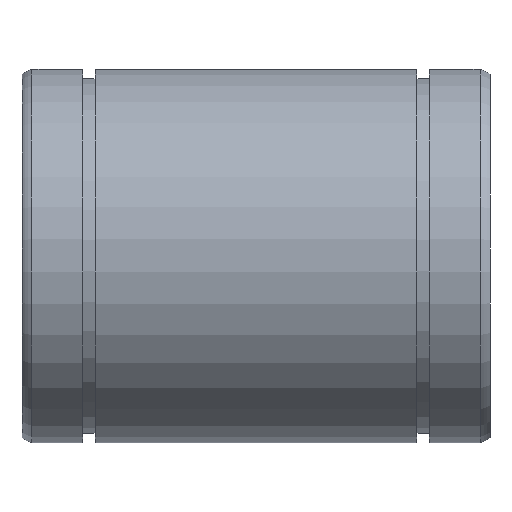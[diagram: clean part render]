
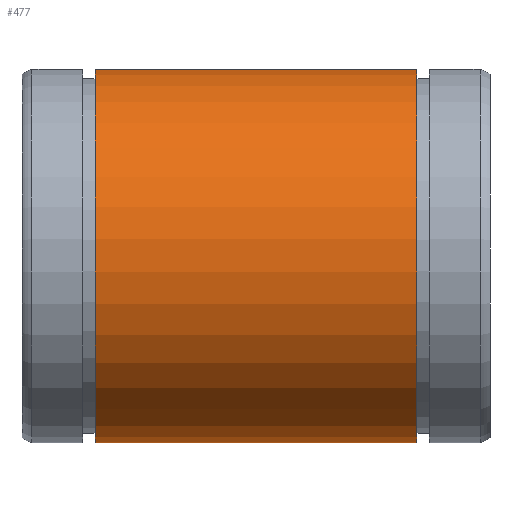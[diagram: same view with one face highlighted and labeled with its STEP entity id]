
A CAD part, top view. The second image highlights one B-rep face of the part: STEP entity #477.
In plain terms, the highlighted cylindrical face has radius 40 mm (diameter 80 mm), a partial arc.
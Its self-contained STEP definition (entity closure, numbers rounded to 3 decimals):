
#90=CARTESIAN_POINT('',(15.6,16.839,-36.283));
#91=VERTEX_POINT('',#90);
#98=CARTESIAN_POINT('',(84.4,16.839,-36.283));
#99=VERTEX_POINT('',#98);
#100=CARTESIAN_POINT('',(84.4,16.839,-36.283));
#101=DIRECTION('',(-1.0,0.0,0.0));
#102=VECTOR('',#101,68.8);
#103=LINE('',#100,#102);
#104=EDGE_CURVE('',#99,#91,#103,.T.);
#333=CARTESIAN_POINT('',(84.4,-16.839,-36.283));
#334=VERTEX_POINT('',#333);
#341=CARTESIAN_POINT('',(15.6,-16.839,-36.283));
#342=VERTEX_POINT('',#341);
#343=CARTESIAN_POINT('',(15.6,-16.839,-36.283));
#344=DIRECTION('',(1.0,0.0,0.0));
#345=VECTOR('',#344,68.8);
#346=LINE('',#343,#345);
#347=EDGE_CURVE('',#342,#334,#346,.T.);
#448=CARTESIAN_POINT('',(15.6,0.0,0.));
#449=DIRECTION('',(-1.0,0.0,0.0));
#450=DIRECTION('',(0.0,0.0,1.0));
#451=AXIS2_PLACEMENT_3D('',#448,#449,#450);
#452=CIRCLE('',#451,40.);
#453=EDGE_CURVE('',#342,#91,#452,.T.);
#460=CARTESIAN_POINT('',(50.,0.0,0.));
#461=DIRECTION('',(-1.0,0.0,0.0));
#462=DIRECTION('',(0.0,0.0,1.0));
#463=AXIS2_PLACEMENT_3D('',#460,#461,#462);
#464=CYLINDRICAL_SURFACE('',#463,40.);
#465=ORIENTED_EDGE('',*,*,#347,.T.);
#466=CARTESIAN_POINT('',(84.4,0.0,0.));
#467=DIRECTION('',(-1.0,0.0,0.0));
#468=DIRECTION('',(0.0,0.0,1.0));
#469=AXIS2_PLACEMENT_3D('',#466,#467,#468);
#470=CIRCLE('',#469,40.);
#471=EDGE_CURVE('',#334,#99,#470,.T.);
#472=ORIENTED_EDGE('',*,*,#471,.T.);
#473=ORIENTED_EDGE('',*,*,#104,.T.);
#474=ORIENTED_EDGE('',*,*,#453,.F.);
#475=EDGE_LOOP('',(#465,#472,#473,#474));
#476=FACE_OUTER_BOUND('',#475,.T.);
#477=ADVANCED_FACE('',(#476),#464,.T.);
